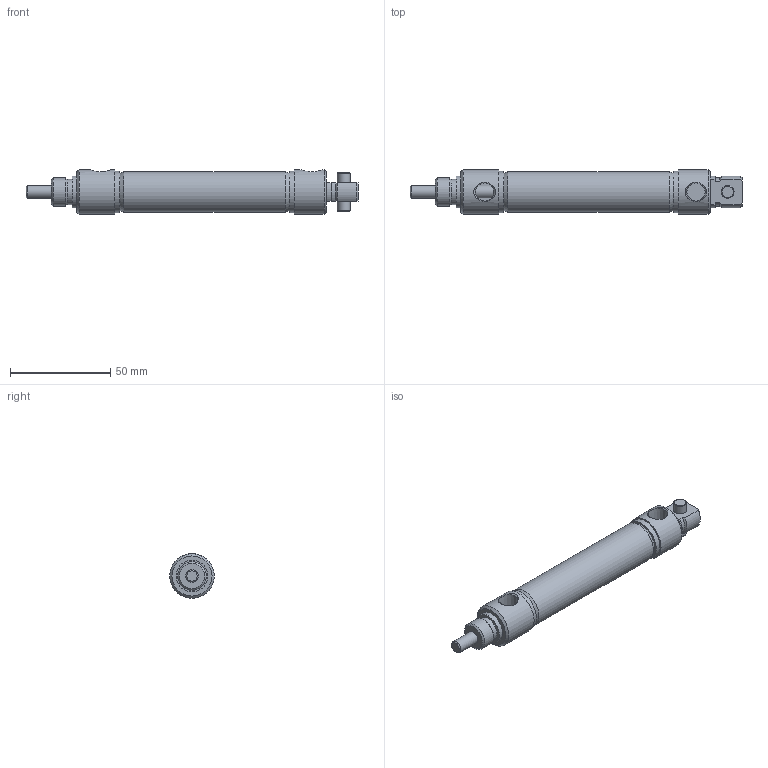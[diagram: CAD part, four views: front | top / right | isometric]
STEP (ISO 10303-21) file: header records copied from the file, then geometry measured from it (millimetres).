
FILE_DESCRIPTION( ( 'STEP AP214' ), '1' );
FILE_NAME( 'p:/temp/worker_425/temp/exporttempdir_84900_202_d0K4b/format_0/0750D02-02A-03.stp', '2020-05-07T14:41:40', ( 'License CC BY-ND 4.0' ), ( 'CADENAS' ), ' ', 'PARTsolutions', ' ' );
FILE_SCHEMA( ( 'AUTOMOTIVE_DESIGN { 1 0 10303 214 1 1 1 1 }' ) );
Length unit declared in the file: inch
Products named in the file (3): 0750D02-02A-03; _0750D02-02A-0300A00A0b; _0750D02-02A-0300A00A0r
Assembly tree (2 placements, depth 2):
  0750D02-02A-03
    _0750D02-02A-0300A00A0b
    _0750D02-02A-0300A00A0r
Bounding box: 165.89 x 22.23 x 22.23 mm (x, y, z)
Volume: 33572.7 mm3; surface area: 21515.6 mm2
Topology: 2 solids, 2 shells, 64 faces, 128 edges, 82 vertices
Faces by surface type: plane 24, cylinder 21, cone 19
Full cylindrical faces by diameter (mm): 6.35 x5, 12.609 x1, 14.287 x1, 15.85 x1, 19.05 x2, 20.472 x1, 20.65 x2, 22.225 x2
Entity records: 2302 total; most frequent: CARTESIAN_POINT 499, DIRECTION 274, ORIENTED_EDGE 198, AXIS2_PLACEMENT_3D 126, EDGE_LOOP 106, EDGE_CURVE 99, FACE_OUTER_BOUND 79, VERTEX_POINT 79
